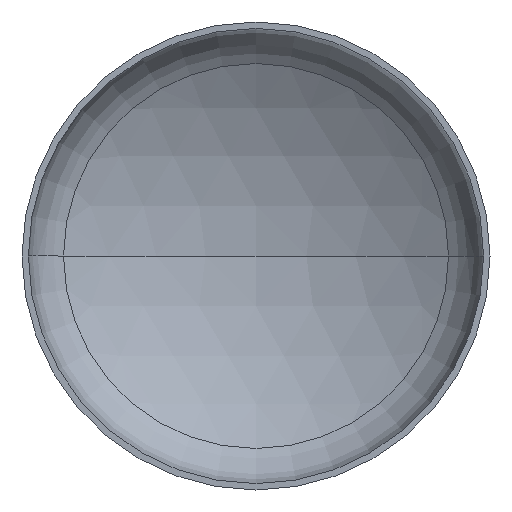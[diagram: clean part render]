
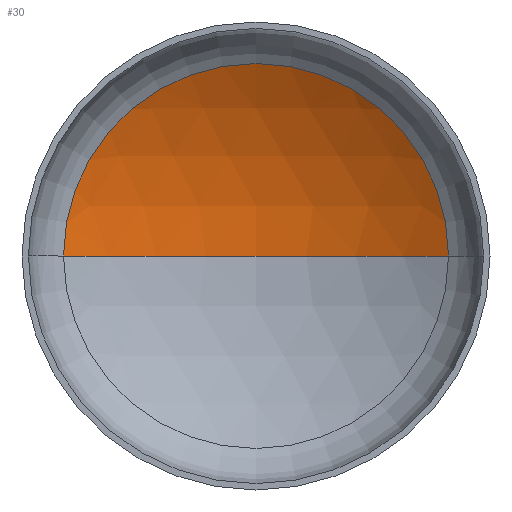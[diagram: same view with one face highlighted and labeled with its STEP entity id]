
A CAD part, front view. The second image highlights one B-rep face of the part: STEP entity #30.
In plain terms, the highlighted spherical face has radius 1760 mm.
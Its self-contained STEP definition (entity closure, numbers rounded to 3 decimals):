
#14 = EDGE_LOOP ( 'NONE', ( #170, #397, #157 ) ) ;
#16 = CARTESIAN_POINT ( 'NONE',  ( 0., -1127.99, 0. ) ) ;
#30 = ADVANCED_FACE ( 'NONE', ( #240 ), #194, .F. ) ;
#31 = AXIS2_PLACEMENT_3D ( 'NONE', #16, #36, #33 ) ;
#32 = AXIS2_PLACEMENT_3D ( 'NONE', #237, #234, #142 ) ;
#33 = DIRECTION ( 'NONE',  ( 1., 0., 0. ) ) ;
#35 = AXIS2_PLACEMENT_3D ( 'NONE', #253, #251, #276 ) ;
#36 = DIRECTION ( 'NONE',  ( 0., 0., 1. ) ) ;
#57 = AXIS2_PLACEMENT_3D ( 'NONE', #284, #247, #280 ) ;
#74 = VERTEX_POINT ( 'NONE', #164 ) ;
#84 = VERTEX_POINT ( 'NONE', #354 ) ;
#91 = VERTEX_POINT ( 'NONE', #300 ) ;
#142 = DIRECTION ( 'NONE',  ( -1., 0., 0. ) ) ;
#144 = CIRCLE ( 'NONE', #32, 1760. ) ;
#157 = ORIENTED_EDGE ( 'NONE', *, *, #166, .T. ) ;
#164 = CARTESIAN_POINT ( 'NONE',  ( 904.789, 381.631, 0. ) ) ;
#166 = EDGE_CURVE ( 'NONE', #74, #84, #356, .T. ) ;
#170 = ORIENTED_EDGE ( 'NONE', *, *, #204, .F. ) ;
#194 = SPHERICAL_SURFACE ( 'NONE', #57, 1760. ) ;
#195 = EDGE_CURVE ( 'NONE', #91, #74, #144, .T. ) ;
#204 = EDGE_CURVE ( 'NONE', #91, #84, #288, .T. ) ;
#234 = DIRECTION ( 'NONE',  ( 0., 0., -1. ) ) ;
#237 = CARTESIAN_POINT ( 'NONE',  ( 0., -1127.99, 0. ) ) ;
#240 = FACE_OUTER_BOUND ( 'NONE', #14, .T. ) ;
#247 = DIRECTION ( 'NONE',  ( 0., 0., -1. ) ) ;
#251 = DIRECTION ( 'NONE',  ( 0., -1., 0. ) ) ;
#253 = CARTESIAN_POINT ( 'NONE',  ( 0., 381.631, 0. ) ) ;
#276 = DIRECTION ( 'NONE',  ( 1., 0., 0. ) ) ;
#280 = DIRECTION ( 'NONE',  ( -1., 0., 0. ) ) ;
#284 = CARTESIAN_POINT ( 'NONE',  ( 0., -1127.99, 0. ) ) ;
#288 = CIRCLE ( 'NONE', #31, 1760. ) ;
#300 = CARTESIAN_POINT ( 'NONE',  ( 0., 632.01, 0. ) ) ;
#354 = CARTESIAN_POINT ( 'NONE',  ( -904.789, 381.631, 0. ) ) ;
#356 = CIRCLE ( 'NONE', #35, 904.789 ) ;
#397 = ORIENTED_EDGE ( 'NONE', *, *, #195, .T. ) ;
